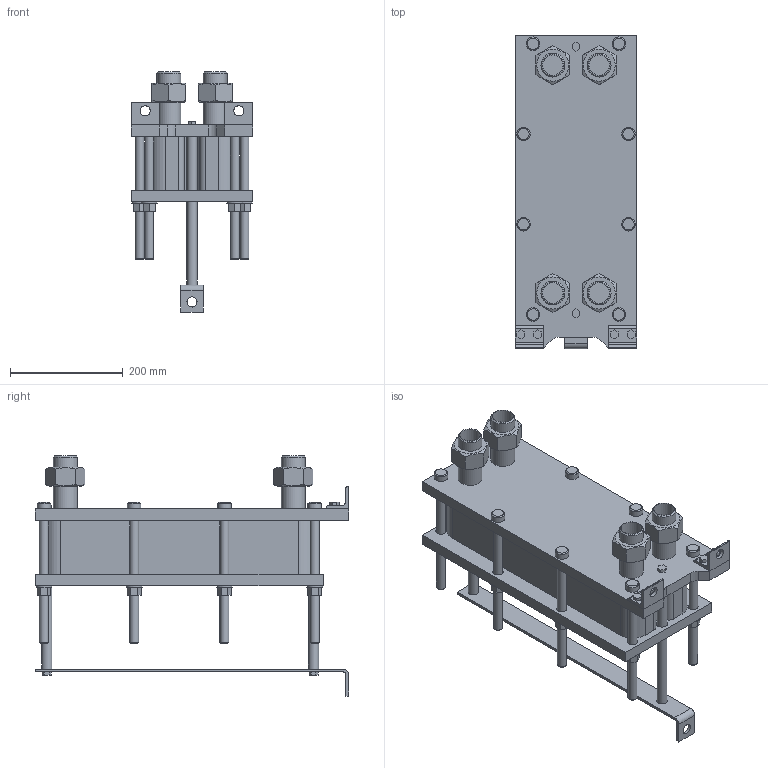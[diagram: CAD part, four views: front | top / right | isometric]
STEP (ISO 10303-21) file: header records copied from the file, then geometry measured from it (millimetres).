
FILE_DESCRIPTION(/* description */ (''),/* implementation_level */ '2;1');
FILE_NAME(/* name */ 'C:\Users\zhuro\Desktop\ENCO\TO\ЭН-004\ЭН-0,5-004-31-1.stp',/* time_stamp */ '2022-06-06T10:45:43+03:00',/* author */ ('zhuro'),/* organization */ (''),/* preprocessor_version */ 'ST-DEVELOPER v18.1',/* originating_system */ 'Autodesk Inventor 2022',/* authorisation */ '');
FILE_SCHEMA (('AUTOMOTIVE_DESIGN { 1 0 10303 214 3 1 1 }'));
Length unit declared in the file: millimetre
Products named in the file (1): ЭН-0,5-004-31-1
Bounding box: 216 x 555 x 425.8 mm (x, y, z)
Volume: 12719428.9 mm3; surface area: 1167148.7 mm2
Topology: 40 solids, 40 shells, 403 faces, 865 edges, 574 vertices
Faces by surface type: plane 272, cylinder 103, cone 28
Full cylindrical faces by diameter (mm): 10 x4, 16 x16, 18 x29, 20 x2, 24 x8, 28 x8, 36.3 x5, 42.3 x9
Entity records: 11137 total; most frequent: CARTESIAN_POINT 1939, DIRECTION 1879, ORIENTED_EDGE 1730, EDGE_CURVE 865, AXIS2_PLACEMENT_3D 658, VERTEX_POINT 574, LINE 563, VECTOR 563
